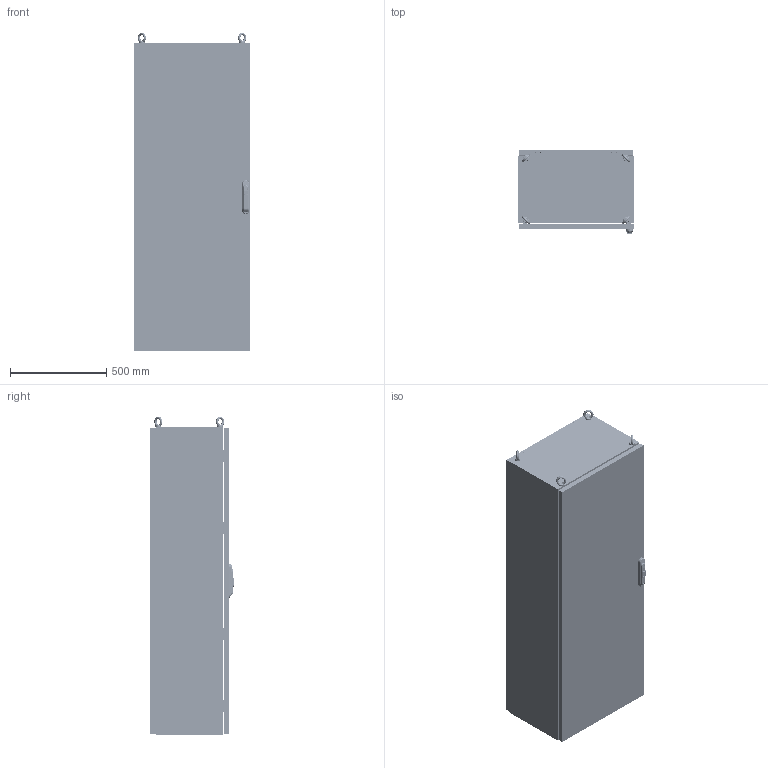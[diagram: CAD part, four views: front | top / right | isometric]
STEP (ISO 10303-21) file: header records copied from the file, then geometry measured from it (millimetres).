
FILE_DESCRIPTION(/* description */ ('Unknown'),/* implementation_level */ '2;1');
FILE_NAME(/* name */ 'FCA06016040',/* time_stamp */ '2024-12-11T16:36:53+01:00',/* author */ ('Unknown'),/* organization */ ('Unknown'),/* preprocessor_version */ 'ST-DEVELOPER v19.4',/* originating_system */ 'Solid Edge',/* authorisation */ 'Unknown');
FILE_SCHEMA (('CONFIG_CONTROL_DESIGN'));
Length unit declared in the file: millimetre
Products named in the file (60): FCA06016040; F000X003.52; F0000001.29; F000X003.29; F0000002.10; F0000000.55; F0000000.02; F000X003.28; F0000002.11; AE00500.10; AE00715.01; AE00219.03; F000X002.65; F000X002.66; F0000001.79; F0000000.07; AE00100.03_oa_0; AE00100.03_oa_1; AE00100.03_oa_2; AE00100.03_oa_3; F000X000.12_oa_4; F000X000.17_oa_5; F0000000.20; 38790003.14_oa_6; F000X000.18_oa_7; F0000000.21; 38790003.14_oa_8; F000X000.19_oa_9; AE00217.25; AE00309.01; F000X000.20_oa_10; AE00368.00; AE00219.00; AE00224.00; AE00198.03; M0000000.37; F0000001.24; AE00701.03; F0000000.13; F0000000.08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
Assembly tree (209 placements, depth 5):
  FCA06016040
    F000X003.52
      F0000001.29  x2
      F000X003.29
        F0000002.10
        F0000000.55  x2
        F0000000.02  x4
      F000X003.28
        F0000002.11
        F0000000.55  x2
        F0000000.02  x4
      AE00500.10  x32
    AE00715.01  x4
    AE00219.03  x8
    F000X002.65
      F000X002.66
        F0000001.79
      F0000000.07  x2
      AE00100.03_oa_0
      AE00100.03_oa_1
      AE00100.03_oa_2
      AE00100.03_oa_3
    F000X000.12_oa_4
      F000X000.17_oa_5
        F0000000.20
        38790003.14_oa_6
      F000X000.18_oa_7
        F0000000.21
        38790003.14_oa_8
      F000X000.19_oa_9
        F0000000.21
        AE00217.25
        AE00309.01
      F000X000.20_oa_10
        F0000000.20
        AE00217.25
        AE00309.01
      AE00368.00  x8
      AE00219.00  x8
      AE00224.00  x2
    AE00198.03  x16
    M0000000.37  x8
    F0000001.24  x4
    AE00701.03  x4
    F0000000.13  x4
    F0000000.08  x4
    F000X002.67
      F000X002.68
        F000X002.69
          F0000001.80
        F000X001.63
          F0000002.20  x2
          F0000002.15  x2
          AE01400.01  x4
        AE00413.05  x4
        AE00417.01  x2
      F0000000.12  x8
      AE00222.15  x8
      AE00316.01  x8
      AE00992.10_oa_11
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Bounding box: 600 x 438.2 x 1657.49 mm (x, y, z)
Volume: 11684036.4 mm3; surface area: 9231823.8 mm2
Topology: 214 solids, 214 shells, 5941 faces, 15510 edges, 10017 vertices
Faces by surface type: plane 3638, cylinder 1629, cone 446, sphere 136, torus 78, bspline 14
Full cylindrical faces by diameter (mm): 2 x4, 3 x1, 3.242 x2, 4 x12, 4.134 x5, 4.25 x150, 4.5 x164, 4.917 x57, 4.918 x8, 5 x6, 6 x66, 6.1 x20, 6.2 x8, 6.5 x28, 6.647 x4, 7.5 x2, 7.8 x2, 8 x8, 8.25 x4, 8.3 x8, 8.5 x2, 9 x32, 10 x2, 10.106 x8, 10.5 x24, 11.8 x8, 12 x24, 14 x1, 16 x1, 17 x3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
Entity records: 50552 total; most frequent: CARTESIAN_POINT 8809, DIRECTION 7777, ORIENTED_EDGE 7242, EDGE_CURVE 3621, AXIS2_PLACEMENT_3D 2615, LINE 2547, VECTOR 2547, VERTEX_POINT 2525
